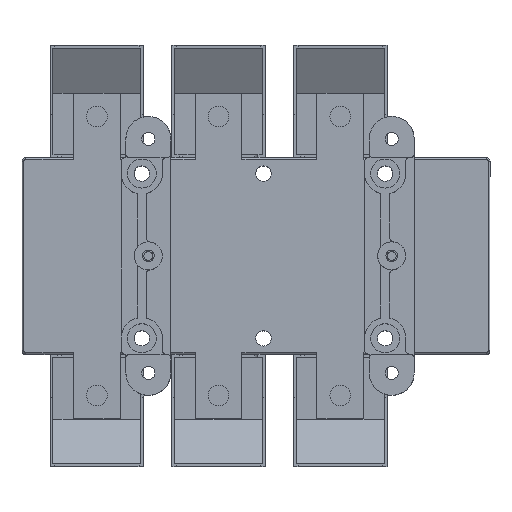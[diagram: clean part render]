
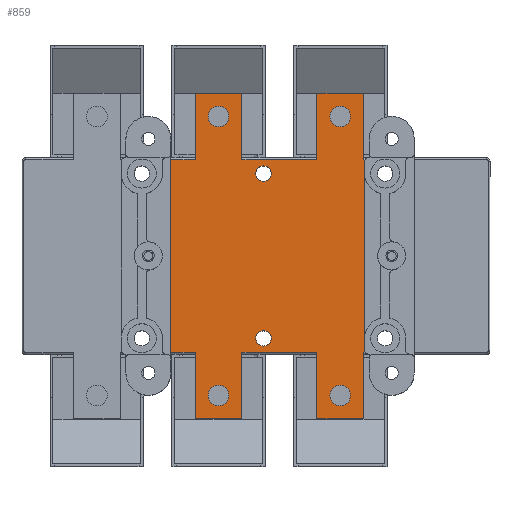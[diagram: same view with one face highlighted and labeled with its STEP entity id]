
A CAD part, top view. The second image highlights one B-rep face of the part: STEP entity #859.
In plain terms, the highlighted planar face has unit normal (0, 0, 1).
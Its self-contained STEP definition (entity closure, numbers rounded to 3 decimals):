
#169=FACE_BOUND('',#1845,.T.);
#170=FACE_BOUND('',#1846,.T.);
#171=FACE_BOUND('',#1847,.T.);
#172=FACE_BOUND('',#1848,.T.);
#173=FACE_BOUND('',#1849,.T.);
#174=FACE_BOUND('',#1850,.T.);
#175=FACE_BOUND('',#1851,.T.);
#371=CIRCLE('',#7438,4.1);
#373=CIRCLE('',#7441,4.1);
#385=CIRCLE('',#7464,5.5);
#387=CIRCLE('',#7467,5.5);
#393=CIRCLE('',#7476,5.5);
#395=CIRCLE('',#7479,5.5);
#479=CIRCLE('',#7633,2.);
#481=CIRCLE('',#7636,2.);
#859=ADVANCED_FACE('',(#169,#170,#171,#172,#173,#174,#175),#1115,.F.);
#1115=PLANE('',#7705);
#1845=EDGE_LOOP('',(#3778,#3779,#3780,#3781,#3782,#3783,#3784,#3785,#3786,
#3787,#3788,#3789,#3790,#3791,#3792,#3793,#3794,#3795,#3796,#3797,#3798,
#3799));
#1846=EDGE_LOOP('',(#3800));
#1847=EDGE_LOOP('',(#3801));
#1848=EDGE_LOOP('',(#3802));
#1849=EDGE_LOOP('',(#3803));
#1850=EDGE_LOOP('',(#3804));
#1851=EDGE_LOOP('',(#3805));
#3778=ORIENTED_EDGE('',*,*,#5198,.F.);
#3779=ORIENTED_EDGE('',*,*,#5557,.T.);
#3780=ORIENTED_EDGE('',*,*,#5268,.F.);
#3781=ORIENTED_EDGE('',*,*,#5259,.F.);
#3782=ORIENTED_EDGE('',*,*,#5264,.F.);
#3783=ORIENTED_EDGE('',*,*,#5541,.T.);
#3784=ORIENTED_EDGE('',*,*,#5315,.T.);
#3785=ORIENTED_EDGE('',*,*,#5311,.T.);
#3786=ORIENTED_EDGE('',*,*,#5319,.T.);
#3787=ORIENTED_EDGE('',*,*,#5542,.T.);
#3788=ORIENTED_EDGE('',*,*,#5456,.T.);
#3789=ORIENTED_EDGE('',*,*,#5507,.T.);
#3790=ORIENTED_EDGE('',*,*,#5452,.T.);
#3791=ORIENTED_EDGE('',*,*,#5537,.T.);
#3792=ORIENTED_EDGE('',*,*,#5332,.T.);
#3793=ORIENTED_EDGE('',*,*,#5334,.T.);
#3794=ORIENTED_EDGE('',*,*,#5328,.T.);
#3795=ORIENTED_EDGE('',*,*,#5532,.T.);
#3796=ORIENTED_EDGE('',*,*,#5277,.F.);
#3797=ORIENTED_EDGE('',*,*,#5282,.F.);
#3798=ORIENTED_EDGE('',*,*,#5280,.F.);
#3799=ORIENTED_EDGE('',*,*,#5556,.T.);
#3800=ORIENTED_EDGE('',*,*,#5255,.T.);
#3801=ORIENTED_EDGE('',*,*,#5253,.T.);
#3802=ORIENTED_EDGE('',*,*,#5247,.T.);
#3803=ORIENTED_EDGE('',*,*,#5245,.T.);
#3804=ORIENTED_EDGE('',*,*,#5215,.F.);
#3805=ORIENTED_EDGE('',*,*,#5213,.F.);
#4321=VERTEX_POINT('',#10952);
#4324=VERTEX_POINT('',#10965);
#4327=VERTEX_POINT('',#10996);
#4329=VERTEX_POINT('',#11001);
#4353=VERTEX_POINT('',#11066);
#4355=VERTEX_POINT('',#11071);
#4361=VERTEX_POINT('',#11086);
#4363=VERTEX_POINT('',#11091);
#4367=VERTEX_POINT('',#11099);
#4368=VERTEX_POINT('',#11101);
#4371=VERTEX_POINT('',#11109);
#4372=VERTEX_POINT('',#11113);
#4379=VERTEX_POINT('',#11132);
#4381=VERTEX_POINT('',#11136);
#4383=VERTEX_POINT('',#11142);
#4384=VERTEX_POINT('',#11144);
#4407=VERTEX_POINT('',#11207);
#4408=VERTEX_POINT('',#11209);
#4411=VERTEX_POINT('',#11217);
#4414=VERTEX_POINT('',#11224);
#4420=VERTEX_POINT('',#11242);
#4421=VERTEX_POINT('',#11244);
#4423=VERTEX_POINT('',#11250);
#4424=VERTEX_POINT('',#11252);
#4508=VERTEX_POINT('',#11561);
#4509=VERTEX_POINT('',#11563);
#4512=VERTEX_POINT('',#11570);
#4513=VERTEX_POINT('',#11572);
#5198=EDGE_CURVE('',#4321,#4324,#6113,.T.);
#5213=EDGE_CURVE('',#4327,#4327,#371,.T.);
#5215=EDGE_CURVE('',#4329,#4329,#373,.T.);
#5245=EDGE_CURVE('',#4353,#4353,#385,.T.);
#5247=EDGE_CURVE('',#4355,#4355,#387,.T.);
#5253=EDGE_CURVE('',#4361,#4361,#393,.T.);
#5255=EDGE_CURVE('',#4363,#4363,#395,.T.);
#5259=EDGE_CURVE('',#4367,#4368,#6146,.T.);
#5264=EDGE_CURVE('',#4371,#4367,#6150,.T.);
#5268=EDGE_CURVE('',#4368,#4372,#6153,.T.);
#5277=EDGE_CURVE('',#4381,#4379,#6161,.T.);
#5280=EDGE_CURVE('',#4383,#4384,#6163,.T.);
#5282=EDGE_CURVE('',#4384,#4381,#6165,.T.);
#5311=EDGE_CURVE('',#4408,#4407,#6190,.T.);
#5315=EDGE_CURVE('',#4411,#4408,#6194,.T.);
#5319=EDGE_CURVE('',#4407,#4414,#6196,.T.);
#5328=EDGE_CURVE('',#4421,#4420,#6204,.T.);
#5332=EDGE_CURVE('',#4424,#4423,#6208,.T.);
#5334=EDGE_CURVE('',#4423,#4421,#6209,.T.);
#5452=EDGE_CURVE('',#4509,#4508,#479,.T.);
#5456=EDGE_CURVE('',#4513,#4512,#481,.T.);
#5507=EDGE_CURVE('',#4512,#4509,#6288,.T.);
#5532=EDGE_CURVE('',#4420,#4379,#6310,.T.);
#5537=EDGE_CURVE('',#4508,#4424,#6315,.T.);
#5541=EDGE_CURVE('',#4371,#4411,#6319,.T.);
#5542=EDGE_CURVE('',#4414,#4513,#6320,.T.);
#5556=EDGE_CURVE('',#4383,#4324,#6334,.T.);
#5557=EDGE_CURVE('',#4321,#4372,#6335,.T.);
#6113=LINE('',#10964,#6891);
#6146=LINE('',#11100,#6924);
#6150=LINE('',#11110,#6928);
#6153=LINE('',#11118,#6931);
#6161=LINE('',#11137,#6939);
#6163=LINE('',#11143,#6941);
#6165=LINE('',#11147,#6943);
#6190=LINE('',#11208,#6968);
#6194=LINE('',#11216,#6972);
#6196=LINE('',#11225,#6974);
#6204=LINE('',#11243,#6982);
#6208=LINE('',#11251,#6986);
#6209=LINE('',#11255,#6987);
#6288=LINE('',#11683,#7066);
#6310=LINE('',#11729,#7088);
#6315=LINE('',#11735,#7093);
#6319=LINE('',#11740,#7097);
#6320=LINE('',#11742,#7098);
#6334=LINE('',#11761,#7112);
#6335=LINE('',#11763,#7113);
#6891=VECTOR('',#8861,1.);
#6924=VECTOR('',#9012,1.);
#6928=VECTOR('',#9020,1.);
#6931=VECTOR('',#9027,1.);
#6939=VECTOR('',#9043,1.);
#6941=VECTOR('',#9049,1.);
#6943=VECTOR('',#9053,1.);
#6968=VECTOR('',#9104,1.);
#6972=VECTOR('',#9110,1.);
#6974=VECTOR('',#9118,1.);
#6982=VECTOR('',#9134,1.);
#6986=VECTOR('',#9140,1.);
#6987=VECTOR('',#9145,1.);
#7066=VECTOR('',#9530,1.);
#7088=VECTOR('',#9586,1.);
#7093=VECTOR('',#9593,1.);
#7097=VECTOR('',#9599,1.);
#7098=VECTOR('',#9602,1.);
#7112=VECTOR('',#9626,1.);
#7113=VECTOR('',#9629,1.);
#7438=AXIS2_PLACEMENT_3D('',#10995,#8904,#8905);
#7441=AXIS2_PLACEMENT_3D('',#11000,#8910,#8911);
#7464=AXIS2_PLACEMENT_3D('',#11065,#8974,#8975);
#7467=AXIS2_PLACEMENT_3D('',#11070,#8980,#8981);
#7476=AXIS2_PLACEMENT_3D('',#11085,#8998,#8999);
#7479=AXIS2_PLACEMENT_3D('',#11090,#9004,#9005);
#7633=AXIS2_PLACEMENT_3D('',#11562,#9424,#9425);
#7636=AXIS2_PLACEMENT_3D('',#11571,#9432,#9433);
#7705=AXIS2_PLACEMENT_3D('',#11781,#9656,#9657);
#8861=DIRECTION('',(0.,1.,0.));
#8904=DIRECTION('',(0.,0.,1.));
#8905=DIRECTION('',(-1.,0.,0.));
#8910=DIRECTION('',(0.,0.,1.));
#8911=DIRECTION('',(-1.,0.,0.));
#8974=DIRECTION('',(0.,0.,-1.));
#8975=DIRECTION('',(-1.,0.,0.));
#8980=DIRECTION('',(0.,0.,-1.));
#8981=DIRECTION('',(-1.,0.,0.));
#8998=DIRECTION('',(0.,0.,-1.));
#8999=DIRECTION('',(-1.,0.,0.));
#9004=DIRECTION('',(0.,0.,-1.));
#9005=DIRECTION('',(-1.,0.,0.));
#9012=DIRECTION('',(-1.,0.,0.));
#9020=DIRECTION('',(0.,-1.,0.));
#9027=DIRECTION('',(0.,1.,0.));
#9043=DIRECTION('',(0.,-1.,0.));
#9049=DIRECTION('',(0.,1.,0.));
#9053=DIRECTION('',(1.,0.,0.));
#9104=DIRECTION('',(1.,0.,0.));
#9110=DIRECTION('',(0.,-1.,0.));
#9118=DIRECTION('',(0.,1.,0.));
#9134=DIRECTION('',(0.,-1.,0.));
#9140=DIRECTION('',(0.,1.,0.));
#9145=DIRECTION('',(-1.,0.,0.));
#9424=DIRECTION('',(0.,0.,-1.));
#9425=DIRECTION('',(-1.,0.,0.));
#9432=DIRECTION('',(0.,0.,-1.));
#9433=DIRECTION('',(-1.,0.,0.));
#9530=DIRECTION('',(0.,1.,0.));
#9586=DIRECTION('',(-1.,0.,0.));
#9593=DIRECTION('',(-1.,0.,0.));
#9599=DIRECTION('',(1.,0.,0.));
#9602=DIRECTION('',(1.,0.,0.));
#9626=DIRECTION('',(-1.,0.,0.));
#9629=DIRECTION('',(1.,0.,0.));
#9656=DIRECTION('',(0.,0.,-1.));
#9657=DIRECTION('',(-1.,0.,0.));
#10952=CARTESIAN_POINT('',(-118.,-51.5,0.));
#10964=CARTESIAN_POINT('',(-118.,62.5,0.));
#10965=CARTESIAN_POINT('',(-118.,51.5,0.));
#10995=CARTESIAN_POINT('',(-68.5,44.,0.));
#10996=CARTESIAN_POINT('',(-72.6,44.,0.));
#11000=CARTESIAN_POINT('',(-68.5,-44.,0.));
#11001=CARTESIAN_POINT('',(-72.6,-44.,0.));
#11065=CARTESIAN_POINT('',(-27.5,74.5,0.));
#11066=CARTESIAN_POINT('',(-33.,74.5,0.));
#11070=CARTESIAN_POINT('',(-92.5,74.5,0.));
#11071=CARTESIAN_POINT('',(-98.,74.5,0.));
#11085=CARTESIAN_POINT('',(-92.5,-74.5,0.));
#11086=CARTESIAN_POINT('',(-98.,-74.5,0.));
#11090=CARTESIAN_POINT('',(-27.5,-74.5,0.));
#11091=CARTESIAN_POINT('',(-33.,-74.5,0.));
#11099=CARTESIAN_POINT('',(-80.,-87.,0.));
#11100=CARTESIAN_POINT('',(-80.,-87.,0.));
#11101=CARTESIAN_POINT('',(-105.,-87.,0.));
#11109=CARTESIAN_POINT('',(-80.,-51.5,0.));
#11110=CARTESIAN_POINT('',(-80.,87.,0.));
#11113=CARTESIAN_POINT('',(-105.,-51.5,0.));
#11118=CARTESIAN_POINT('',(-105.,-87.,0.));
#11132=CARTESIAN_POINT('',(-80.,51.5,0.));
#11136=CARTESIAN_POINT('',(-80.,87.,0.));
#11137=CARTESIAN_POINT('',(-80.,87.,0.));
#11142=CARTESIAN_POINT('',(-105.,51.5,0.));
#11143=CARTESIAN_POINT('',(-105.,-87.,0.));
#11144=CARTESIAN_POINT('',(-105.,87.,0.));
#11147=CARTESIAN_POINT('',(-105.,87.,0.));
#11207=CARTESIAN_POINT('',(-15.,-87.,0.));
#11208=CARTESIAN_POINT('',(-40.,-87.,0.));
#11209=CARTESIAN_POINT('',(-40.,-87.,0.));
#11216=CARTESIAN_POINT('',(-40.,87.,0.));
#11217=CARTESIAN_POINT('',(-40.,-51.5,0.));
#11224=CARTESIAN_POINT('',(-15.,-51.5,0.));
#11225=CARTESIAN_POINT('',(-15.,-87.,0.));
#11242=CARTESIAN_POINT('',(-40.,51.5,0.));
#11243=CARTESIAN_POINT('',(-40.,87.,0.));
#11244=CARTESIAN_POINT('',(-40.,87.,0.));
#11250=CARTESIAN_POINT('',(-15.,87.,0.));
#11251=CARTESIAN_POINT('',(-15.,-87.,0.));
#11252=CARTESIAN_POINT('',(-15.,51.5,0.));
#11255=CARTESIAN_POINT('',(-15.,87.,0.));
#11561=CARTESIAN_POINT('',(-14.232,51.5,0.));
#11562=CARTESIAN_POINT('',(-12.5,50.5,0.));
#11563=CARTESIAN_POINT('',(-14.5,50.5,0.));
#11570=CARTESIAN_POINT('',(-14.5,-50.5,0.));
#11571=CARTESIAN_POINT('',(-12.5,-50.5,0.));
#11572=CARTESIAN_POINT('',(-14.232,-51.5,0.));
#11683=CARTESIAN_POINT('',(-14.5,62.5,0.));
#11729=CARTESIAN_POINT('',(-195.5,51.5,0.));
#11735=CARTESIAN_POINT('',(-195.5,51.5,0.));
#11740=CARTESIAN_POINT('',(-12.5,-51.5,0.));
#11742=CARTESIAN_POINT('',(-12.5,-51.5,0.));
#11761=CARTESIAN_POINT('',(-195.5,51.5,0.));
#11763=CARTESIAN_POINT('',(-12.5,-51.5,0.));
#11781=CARTESIAN_POINT('',(50.5,-50.5,0.));
